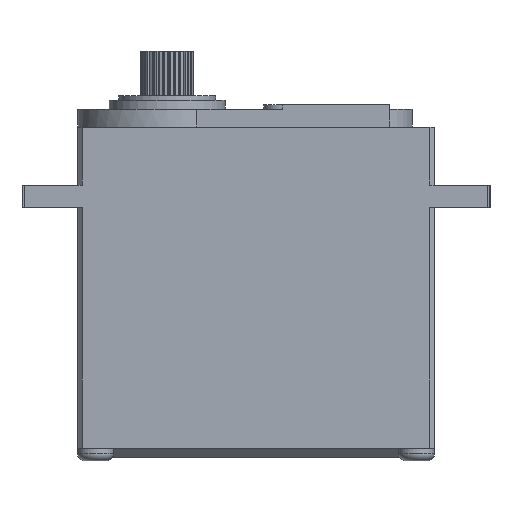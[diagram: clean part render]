
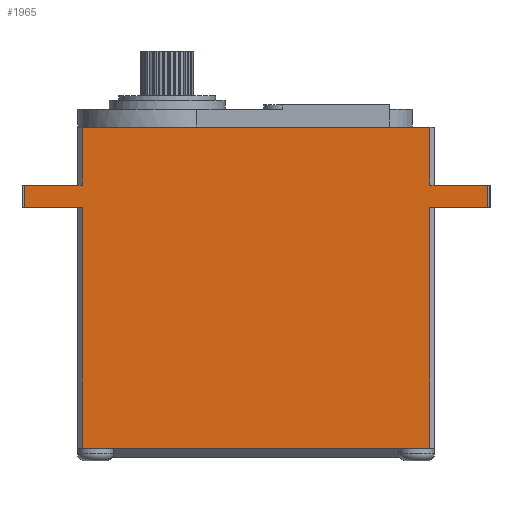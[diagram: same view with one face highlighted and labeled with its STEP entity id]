
A CAD part, front view. The second image highlights one B-rep face of the part: STEP entity #1965.
In plain terms, the highlighted planar face has unit normal (0, -1, 0).
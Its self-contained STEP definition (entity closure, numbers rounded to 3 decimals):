
#58 = CARTESIAN_POINT ( 'NONE',  ( -20., -10., 37. ) ) ;
#295 = LINE ( 'NONE', #8879, #9249 ) ;
#551 = VERTEX_POINT ( 'NONE', #3374 ) ;
#583 = LINE ( 'NONE', #2047, #7723 ) ;
#721 = VECTOR ( 'NONE', #2490, 1000. ) ;
#835 = VECTOR ( 'NONE', #11180, 1000. ) ;
#1079 = ORIENTED_EDGE ( 'NONE', *, *, #12688, .T. ) ;
#1416 = ORIENTED_EDGE ( 'NONE', *, *, #11970, .F. ) ;
#1557 = CARTESIAN_POINT ( 'NONE',  ( -19.5, -10., 1. ) ) ;
#1694 = CARTESIAN_POINT ( 'NONE',  ( -19.5, -10., 37. ) ) ;
#1848 = VERTEX_POINT ( 'NONE', #7989 ) ;
#1940 = ORIENTED_EDGE ( 'NONE', *, *, #9242, .T. ) ;
#1965 = ADVANCED_FACE ( 'NONE', ( #12529 ), #5961, .F. ) ;
#1970 = EDGE_LOOP ( 'NONE', ( #17057, #14754, #12635, #5866, #5335, #6543, #2866, #1079, #4036, #1940, #4481, #17571, #15596, #7889, #3707, #1416 ) ) ;
#2047 = CARTESIAN_POINT ( 'NONE',  ( -26., -10., 28. ) ) ;
#2327 = CARTESIAN_POINT ( 'NONE',  ( 19.5, -10., 28. ) ) ;
#2463 = CARTESIAN_POINT ( 'NONE',  ( 26., -10., 28. ) ) ;
#2490 = DIRECTION ( 'NONE',  ( 1., 0., 0. ) ) ;
#2546 = DIRECTION ( 'NONE',  ( 0., 0., -1. ) ) ;
#2866 = ORIENTED_EDGE ( 'NONE', *, *, #4188, .F. ) ;
#3036 = DIRECTION ( 'NONE',  ( 0., 0., 1. ) ) ;
#3146 = VECTOR ( 'NONE', #7109, 1000. ) ;
#3374 = CARTESIAN_POINT ( 'NONE',  ( 19.5, -10., 30.5 ) ) ;
#3399 = DIRECTION ( 'NONE',  ( 0., 0., -1. ) ) ;
#3587 = CARTESIAN_POINT ( 'NONE',  ( -26., -10., 30.5 ) ) ;
#3623 = CARTESIAN_POINT ( 'NONE',  ( 26., -10., 28. ) ) ;
#3690 = VECTOR ( 'NONE', #9159, 1000. ) ;
#3707 = ORIENTED_EDGE ( 'NONE', *, *, #4250, .F. ) ;
#3781 = EDGE_CURVE ( 'NONE', #14217, #1848, #5097, .T. ) ;
#3915 = CARTESIAN_POINT ( 'NONE',  ( -9.129, -10., 37. ) ) ;
#4036 = ORIENTED_EDGE ( 'NONE', *, *, #6839, .T. ) ;
#4114 = CARTESIAN_POINT ( 'NONE',  ( 16., -10., 1. ) ) ;
#4188 = EDGE_CURVE ( 'NONE', #11529, #17317, #9091, .T. ) ;
#4209 = CARTESIAN_POINT ( 'NONE',  ( -20., -10., 37. ) ) ;
#4250 = EDGE_CURVE ( 'NONE', #7699, #5706, #9441, .T. ) ;
#4420 = LINE ( 'NONE', #12923, #17921 ) ;
#4481 = ORIENTED_EDGE ( 'NONE', *, *, #3781, .F. ) ;
#4497 = VERTEX_POINT ( 'NONE', #1694 ) ;
#4519 = DIRECTION ( 'NONE',  ( 0., 0., 1. ) ) ;
#5097 = LINE ( 'NONE', #3623, #17379 ) ;
#5335 = ORIENTED_EDGE ( 'NONE', *, *, #8252, .T. ) ;
#5539 = VERTEX_POINT ( 'NONE', #4114 ) ;
#5633 = CARTESIAN_POINT ( 'NONE',  ( -19.5, -10., 37. ) ) ;
#5684 = CARTESIAN_POINT ( 'NONE',  ( 26., -10., 30.5 ) ) ;
#5706 = VERTEX_POINT ( 'NONE', #12302 ) ;
#5866 = ORIENTED_EDGE ( 'NONE', *, *, #11443, .T. ) ;
#5961 = PLANE ( 'NONE',  #7448 ) ;
#6091 = DIRECTION ( 'NONE',  ( -1., 0., 0. ) ) ;
#6351 = EDGE_CURVE ( 'NONE', #8243, #7005, #16121, .T. ) ;
#6369 = CARTESIAN_POINT ( 'NONE',  ( -19.5, -10., 30.5 ) ) ;
#6428 = CARTESIAN_POINT ( 'NONE',  ( -16., -10., 1. ) ) ;
#6543 = ORIENTED_EDGE ( 'NONE', *, *, #9892, .T. ) ;
#6688 = EDGE_CURVE ( 'NONE', #12602, #551, #13541, .T. ) ;
#6839 = EDGE_CURVE ( 'NONE', #5539, #11589, #6924, .T. ) ;
#6870 = DIRECTION ( 'NONE',  ( -1., 0., 0. ) ) ;
#6924 = LINE ( 'NONE', #15309, #835 ) ;
#7005 = VERTEX_POINT ( 'NONE', #6369 ) ;
#7107 = VECTOR ( 'NONE', #7525, 1000. ) ;
#7109 = DIRECTION ( 'NONE',  ( 1., 0., 0. ) ) ;
#7426 = VERTEX_POINT ( 'NONE', #18029 ) ;
#7431 = LINE ( 'NONE', #10055, #7107 ) ;
#7448 = AXIS2_PLACEMENT_3D ( 'NONE', #15551, #10158, #3036 ) ;
#7525 = DIRECTION ( 'NONE',  ( 1., 0., 0. ) ) ;
#7691 = VECTOR ( 'NONE', #2546, 1000. ) ;
#7699 = VERTEX_POINT ( 'NONE', #3915 ) ;
#7723 = VECTOR ( 'NONE', #7816, 1000. ) ;
#7816 = DIRECTION ( 'NONE',  ( 1., 0., 0. ) ) ;
#7889 = ORIENTED_EDGE ( 'NONE', *, *, #13275, .T. ) ;
#7989 = CARTESIAN_POINT ( 'NONE',  ( 19.5, -10., 28. ) ) ;
#8243 = VERTEX_POINT ( 'NONE', #15926 ) ;
#8252 = EDGE_CURVE ( 'NONE', #15784, #9713, #583, .T. ) ;
#8386 = LINE ( 'NONE', #58, #3146 ) ;
#8469 = CARTESIAN_POINT ( 'NONE',  ( 19.5, -10., 1. ) ) ;
#8879 = CARTESIAN_POINT ( 'NONE',  ( -26., -10., 30.5 ) ) ;
#8963 = VECTOR ( 'NONE', #12848, 1000. ) ;
#9091 = LINE ( 'NONE', #17601, #12674 ) ;
#9159 = DIRECTION ( 'NONE',  ( 1., 0., 0. ) ) ;
#9242 = EDGE_CURVE ( 'NONE', #11589, #1848, #10529, .T. ) ;
#9249 = VECTOR ( 'NONE', #3399, 1000. ) ;
#9441 = LINE ( 'NONE', #10738, #11258 ) ;
#9713 = VERTEX_POINT ( 'NONE', #16903 ) ;
#9892 = EDGE_CURVE ( 'NONE', #9713, #17317, #15147, .T. ) ;
#10055 = CARTESIAN_POINT ( 'NONE',  ( 16., -10., 1. ) ) ;
#10158 = DIRECTION ( 'NONE',  ( 0., 1., 0. ) ) ;
#10529 = LINE ( 'NONE', #2327, #17078 ) ;
#10622 = DIRECTION ( 'NONE',  ( 0., 0., 1. ) ) ;
#10738 = CARTESIAN_POINT ( 'NONE',  ( -20., -10., 37. ) ) ;
#11180 = DIRECTION ( 'NONE',  ( 1., 0., 0. ) ) ;
#11258 = VECTOR ( 'NONE', #14936, 1000. ) ;
#11443 = EDGE_CURVE ( 'NONE', #8243, #15784, #295, .T. ) ;
#11529 = VERTEX_POINT ( 'NONE', #6428 ) ;
#11589 = VERTEX_POINT ( 'NONE', #8469 ) ;
#11690 = EDGE_CURVE ( 'NONE', #4497, #7005, #15593, .T. ) ;
#11970 = EDGE_CURVE ( 'NONE', #7426, #7699, #8386, .T. ) ;
#12302 = CARTESIAN_POINT ( 'NONE',  ( 19.5, -10., 37. ) ) ;
#12529 = FACE_OUTER_BOUND ( 'NONE', #1970, .T. ) ;
#12595 = VECTOR ( 'NONE', #4519, 1000. ) ;
#12602 = VERTEX_POINT ( 'NONE', #5684 ) ;
#12635 = ORIENTED_EDGE ( 'NONE', *, *, #6351, .F. ) ;
#12674 = VECTOR ( 'NONE', #6091, 1000. ) ;
#12688 = EDGE_CURVE ( 'NONE', #11529, #5539, #7431, .T. ) ;
#12741 = LINE ( 'NONE', #15574, #12595 ) ;
#12848 = DIRECTION ( 'NONE',  ( 0., 0., -1. ) ) ;
#12923 = CARTESIAN_POINT ( 'NONE',  ( 26., -10., 30.5 ) ) ;
#12947 = CARTESIAN_POINT ( 'NONE',  ( -26., -10., 28. ) ) ;
#13275 = EDGE_CURVE ( 'NONE', #551, #5706, #12741, .T. ) ;
#13424 = DIRECTION ( 'NONE',  ( -1., 0., 0. ) ) ;
#13541 = LINE ( 'NONE', #16566, #16573 ) ;
#14217 = VERTEX_POINT ( 'NONE', #2463 ) ;
#14754 = ORIENTED_EDGE ( 'NONE', *, *, #11690, .T. ) ;
#14927 = EDGE_CURVE ( 'NONE', #12602, #14217, #4420, .T. ) ;
#14936 = DIRECTION ( 'NONE',  ( 1., 0., 0. ) ) ;
#15004 = LINE ( 'NONE', #4209, #721 ) ;
#15147 = LINE ( 'NONE', #5633, #7691 ) ;
#15309 = CARTESIAN_POINT ( 'NONE',  ( -20., -10., 1. ) ) ;
#15551 = CARTESIAN_POINT ( 'NONE',  ( -20., -10., 37. ) ) ;
#15574 = CARTESIAN_POINT ( 'NONE',  ( 19.5, -10., 37. ) ) ;
#15593 = LINE ( 'NONE', #16970, #8963 ) ;
#15596 = ORIENTED_EDGE ( 'NONE', *, *, #6688, .T. ) ;
#15784 = VERTEX_POINT ( 'NONE', #12947 ) ;
#15850 = DIRECTION ( 'NONE',  ( 0., 0., -1. ) ) ;
#15926 = CARTESIAN_POINT ( 'NONE',  ( -26., -10., 30.5 ) ) ;
#16121 = LINE ( 'NONE', #3587, #3690 ) ;
#16177 = EDGE_CURVE ( 'NONE', #4497, #7426, #15004, .T. ) ;
#16566 = CARTESIAN_POINT ( 'NONE',  ( 26., -10., 30.5 ) ) ;
#16573 = VECTOR ( 'NONE', #6870, 1000. ) ;
#16903 = CARTESIAN_POINT ( 'NONE',  ( -19.5, -10., 28. ) ) ;
#16970 = CARTESIAN_POINT ( 'NONE',  ( -19.5, -10., 37. ) ) ;
#17057 = ORIENTED_EDGE ( 'NONE', *, *, #16177, .F. ) ;
#17078 = VECTOR ( 'NONE', #10622, 1000. ) ;
#17317 = VERTEX_POINT ( 'NONE', #1557 ) ;
#17379 = VECTOR ( 'NONE', #13424, 1000. ) ;
#17571 = ORIENTED_EDGE ( 'NONE', *, *, #14927, .F. ) ;
#17601 = CARTESIAN_POINT ( 'NONE',  ( -20., -10., 1. ) ) ;
#17921 = VECTOR ( 'NONE', #15850, 1000. ) ;
#18029 = CARTESIAN_POINT ( 'NONE',  ( -10.801, -10., 37. ) ) ;
